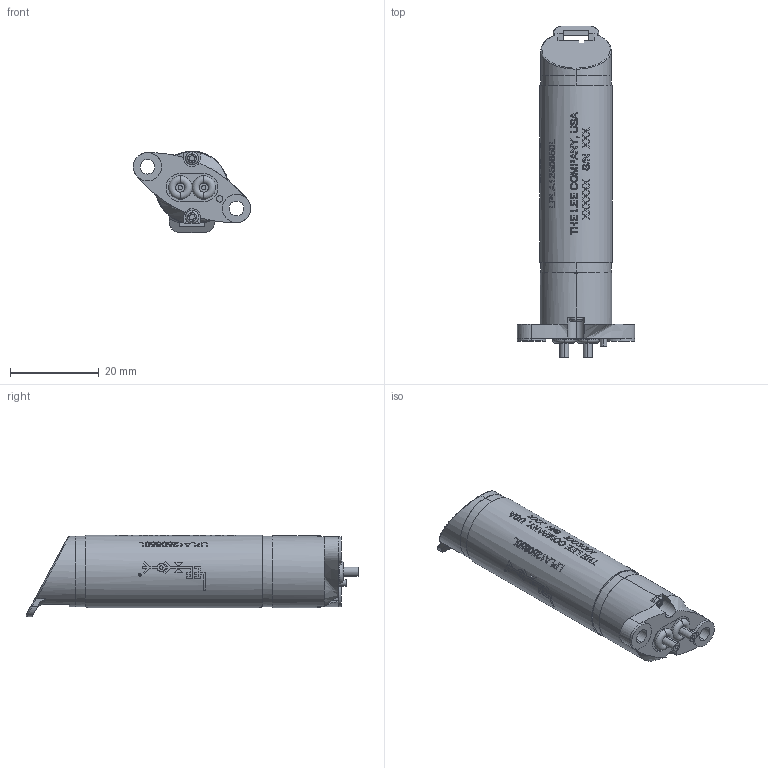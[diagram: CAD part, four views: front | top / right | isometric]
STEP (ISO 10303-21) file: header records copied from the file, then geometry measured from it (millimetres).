
FILE_DESCRIPTION (( 'STEP AP214' ), '1' );
FILE_NAME ('LPLA1250650L B2.step', '2023-11-30T16:14:36', ( '' ), ( '' ), 'SwSTEP 2.0', 'SolidWorks 2023', '' );
FILE_SCHEMA (( 'AUTOMOTIVE_DESIGN' ));
Length unit declared in the file: inch
Products named in the file (1): LPLA1250650L B2
Bounding box: 26.42 x 74.82 x 18.35 mm (x, y, z)
Volume: 13477 mm3; surface area: 4583.8 mm2
Topology: 3 solids, 3 shells, 797 faces, 2159 edges, 1435 vertices
Faces by surface type: bspline 326, plane 325, cylinder 134, torus 12
Entity records: 42750 total; most frequent: CARTESIAN_POINT 25377, ORIENTED_EDGE 4318, DIRECTION 2376, EDGE_CURVE 2159, VERTEX_POINT 1435, B_SPLINE_CURVE_WITH_KNOTS 1084, EDGE_LOOP 874, AXIS2_PLACEMENT_3D 839
